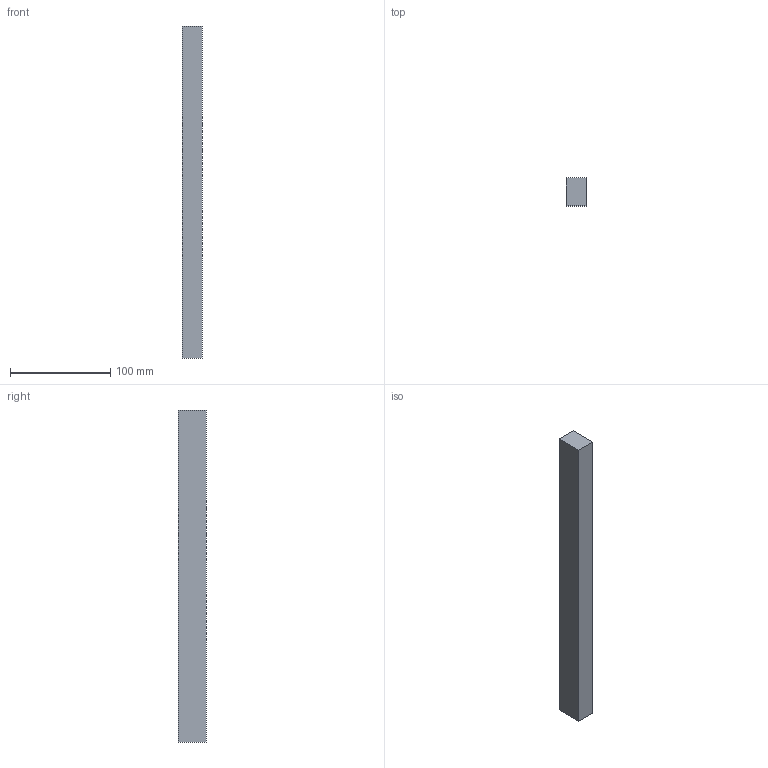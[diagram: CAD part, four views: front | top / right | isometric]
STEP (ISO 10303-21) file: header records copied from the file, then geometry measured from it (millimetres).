
FILE_DESCRIPTION(('Open CASCADE Model'),'2;1');
FILE_NAME('Open CASCADE Shape Model','2026-09-19T23:46:39',('Author'),( 'Open CASCADE'),'Open CASCADE STEP processor 7.9','Open CASCADE 7.9' ,'Unknown');
FILE_SCHEMA(('AUTOMOTIVE_DESIGN { 1 0 10303 214 1 1 1 1 }'));
Length unit declared in the file: millimetre
Products named in the file (1): Open CASCADE STEP translator 7.9 2
Bounding box: 20 x 28 x 332 mm (x, y, z)
Volume: 185920 mm3; surface area: 32992 mm2
Topology: 1 solids, 1 shells, 6 faces, 12 edges, 8 vertices
Faces by surface type: plane 6
Entity records: 322 total; most frequent: CARTESIAN_POINT 51, DIRECTION 50, LINE 36, VECTOR 36, ORIENTED_EDGE 24, PCURVE 24, DEFINITIONAL_REPRESENTATION 24, EDGE_CURVE 12
